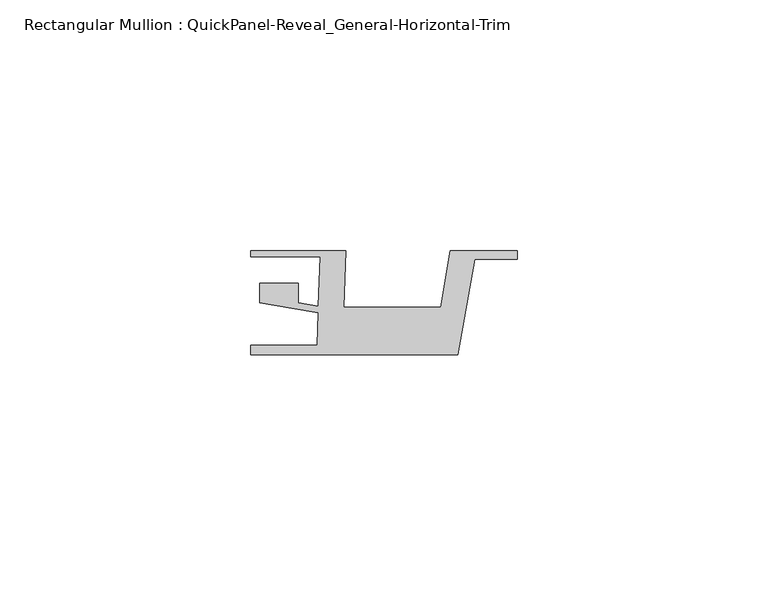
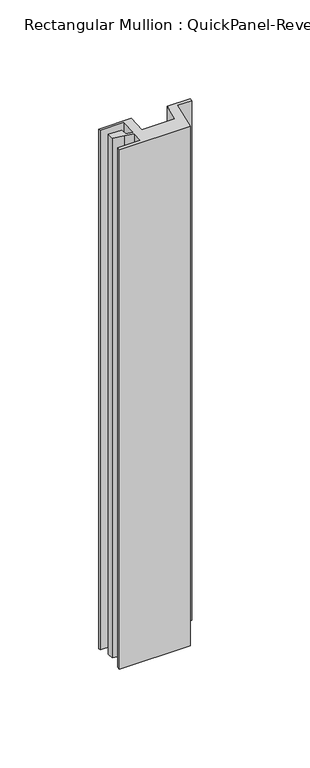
"""IFC4 building model written with IfcOpenShell, lengths in millimetres: member geometry, Rectangular Mullion : QuickPanel-Reveal_General-Horizontal-Trim."""

from ifc_helpers import new_model, si_unit, frame, origin, place, context, project, spatial, polyline, outline, extrude, source, transform, mapped, element, save


def rectangular_mullion_quickpanel_reveal_general_horizontal_2c9161bf(model_context):
    return source(origin(), model_context, "Body", "SweptSolid", [
        extrude(outline(polyline([(-53.1926881, -8.6293878), (-53.1926881, -6.6935423), (-39.9517754, -6.6935423), (-39.7249902, -0.1992641), (-44.9752711, 0.7008023), (-51.4106037, 1.8040245), (-51.4106037, 5.6493034), (-43.6658306, 5.6493034), (-43.6658306, 1.7648465), (-39.6802617, 1.0815922), (-39.3363347, 10.9303752), (-53.1926881, 10.9303752), (-53.1926881, 12.1803727), (-34.2095873, 12.1803727), (-34.6033563, 0.9043028), (-15.3127056, 0.9043028), (-13.3796258, 12.1803727), (0.0, 12.1803727), (0.0, 10.4985348), (-8.5254306, 10.4985348), (-11.8981995, -8.6293878), (-53.1926881, -8.6293878)])), frame((0.0, 0.0, -320.6579255), z_axis=(0.0, 0.0, 1.0), x_axis=(1.0, 0.0, 0.0)), (0.0, 0.0, 1.0), 320.6579255),
    ])


if __name__ == "__main__":
    model = new_model("IFC4")
    model_context = context("Model", 3, world=origin())
    ifc_project = project(units=[si_unit("LENGTHUNIT", "METRE", prefix="MILLI")], contexts=[model_context])
    site = spatial("IfcSite", under=ifc_project)
    building = spatial("IfcBuilding", under=site)
    placement = place(None, origin())
    rectangular_mullion_quickpanel_reveal_general_horizontal_shape = rectangular_mullion_quickpanel_reveal_general_horizontal_2c9161bf(model_context)
    element("IfcMember", 1, ObjectType="Rectangular Mullion : QuickPanel-Reveal_General-Horizontal-Trim", at=placement, inside=building, context=model_context, shape_type="MappedRepresentation", body=[
        mapped(rectangular_mullion_quickpanel_reveal_general_horizontal_shape, transform((0.0, 0.0, 0.0), x_axis=(1.0, 0.0, 0.0), y_axis=(0.0, 1.0, 0.0), z_axis=(0.0, 0.0, 1.0))),
    ])
    save(model, "model.ifc")
